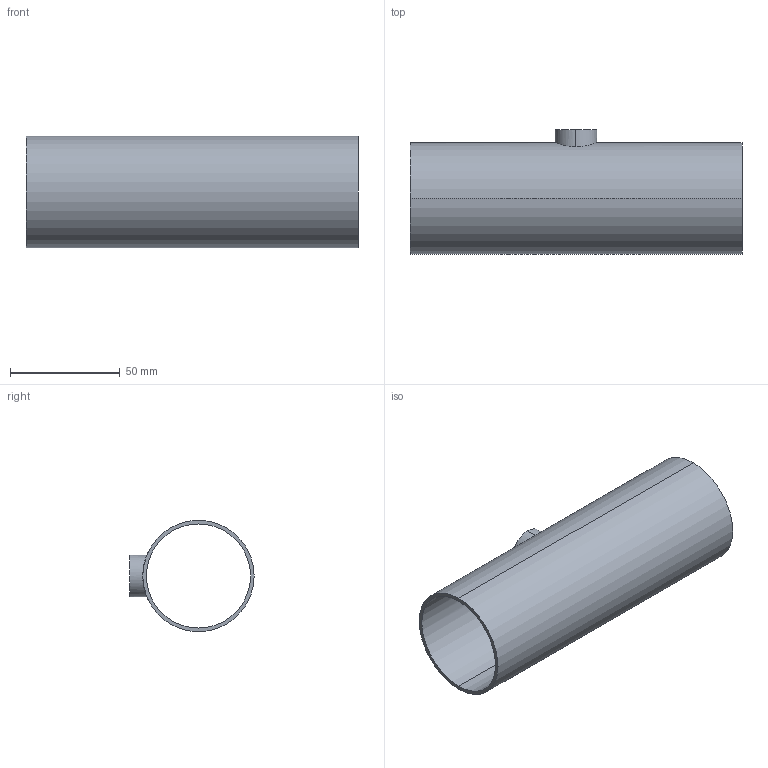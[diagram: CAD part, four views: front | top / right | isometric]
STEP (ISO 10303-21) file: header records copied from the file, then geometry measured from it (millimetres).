
FILE_DESCRIPTION (( 'STEP AP214' ), '1' );
FILE_NAME ('TEG7RS6L2.0x.75-...STEP', '2016-05-24T08:37:44', ( 'eran' ), ( '' ), 'SwSTEP 2.0', 'SolidWorks 2016', '' );
FILE_SCHEMA (( 'AUTOMOTIVE_DESIGN' ));
Length unit declared in the file: millimetre
Products named in the file (1): TEG7RS6L2.0x.75-..
Bounding box: 151.4 x 56.7 x 50.8 mm (x, y, z)
Volume: 38848.8 mm3; surface area: 47681.6 mm2
Topology: 1 solids, 1 shells, 11 faces, 24 edges, 16 vertices
Faces by surface type: cylinder 8, plane 3
Entity records: 528 total; most frequent: CARTESIAN_POINT 236, DIRECTION 56, ORIENTED_EDGE 48, EDGE_CURVE 24, AXIS2_PLACEMENT_3D 24, EDGE_LOOP 16, VERTEX_POINT 16, CIRCLE 12
